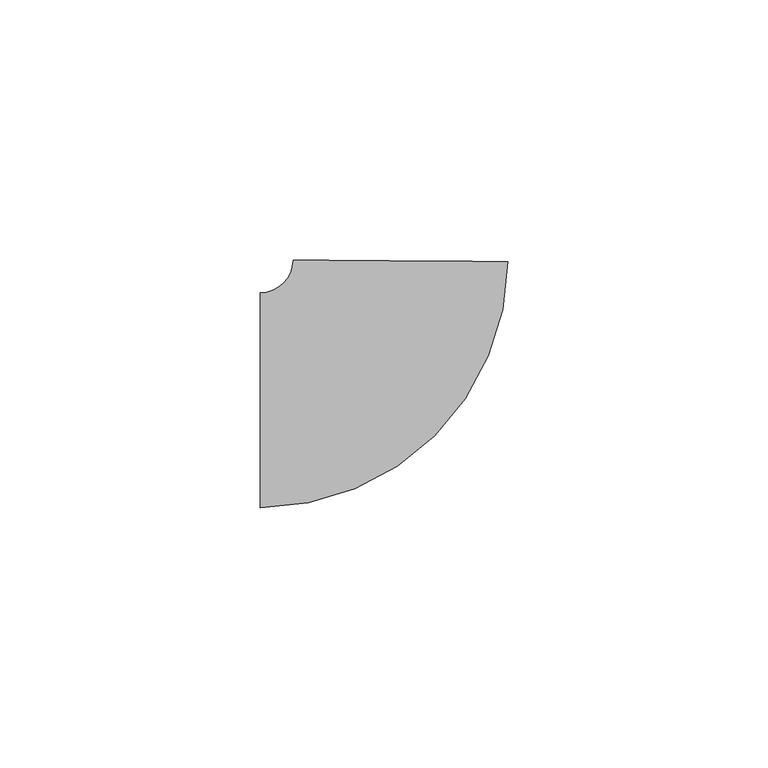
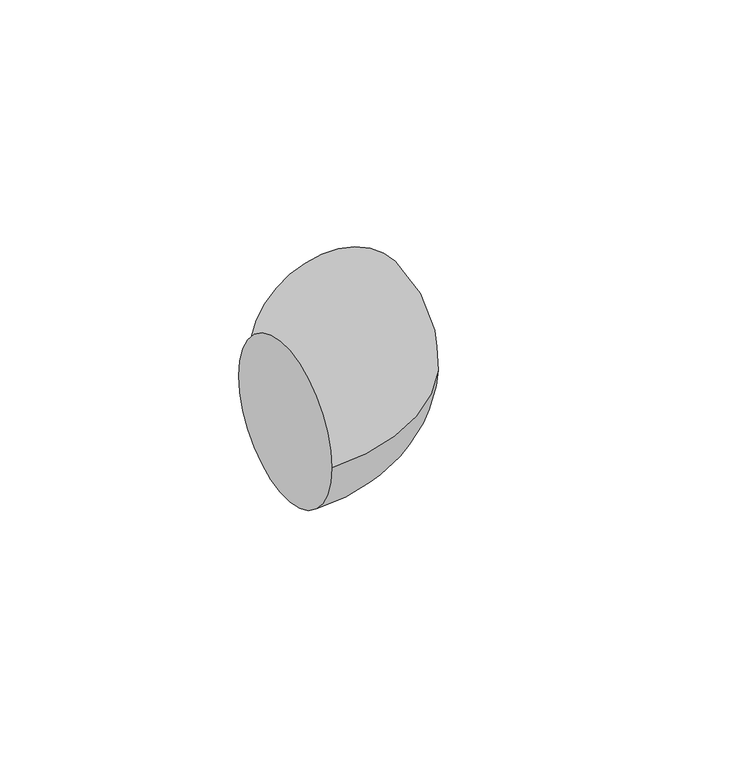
"""IFC4 building model written with IfcOpenShell, lengths in millimetres: pipe fitting geometry, M_Codo - Genérico : Estándar."""

from ifc_helpers import new_model, si_unit, point, frame, origin, place, context, project, spatial, circle_curve, ellipse_curve, trimmed, source, transform, mapped, element, save
from ifc_brep_helpers import plane_surface, revolved_surface, advanced_brep


def pipe_fitting_59c7173b(model_context):
    return source(origin(), model_context, "Body", "AdvancedBrep", [
        advanced_brep(
        [(-26.7876886, -20.6375, 0.0), (-26.7876886, 20.6375, 0.0), (20.8359964, 26.6335863, 0.0), (-20.4378639, 26.9403115, 0.0)],
        [
            (0, 1, circle_curve(frame((-26.7876886, 0.0, 0.0), z_axis=(-1.0, 0.0, 0.0), x_axis=(0.0, 1.0, 0.0)), 20.6375)),
            (1, 0, circle_curve(frame((-26.7876886, 0.0, 0.0), z_axis=(-1.0, 0.0, 0.0), x_axis=(0.0, 1.0, 0.0)), 20.6375)),
            (2, 3, circle_curve(frame((0.1990662, 26.7869489, 0.0), z_axis=(0.007431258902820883, 0.9999723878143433, 0.0), x_axis=(-0.9999723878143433, 0.007431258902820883, 0.0)), 20.6375)),
            (3, 2, circle_curve(frame((0.1990662, 26.7869489, 0.0), z_axis=(0.007431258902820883, 0.9999723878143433, 0.0), x_axis=(-0.9999723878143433, 0.007431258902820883, 0.0)), 20.6375)),
            (3, 1, circle_curve(frame((-26.7876886, 26.9875, 0.0), z_axis=(0.0, 0.0, -1.0), x_axis=(0.0, -1.0, 0.0)), 6.35)),
            (0, 2, circle_curve(frame((-26.7876886, 26.9875, 0.0), z_axis=(0.0, 0.0, 1.0), x_axis=(0.0, -1.0, 0.0)), 47.625)),
        ],
        [
            plane_surface(frame((-26.7876886, 0.0, 0.0), z_axis=(-1.0, 0.0, 0.0), x_axis=(0.0, 0.0, 1.0))),
            plane_surface(frame((0.1990662, 26.7869489, 0.0), z_axis=(0.007431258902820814, 0.9999723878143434, 0.0), x_axis=(0.0, 0.0, 1.0))),
            revolved_surface(trimmed(ellipse_curve(frame((-26.7876886, 0.0, 0.0), z_axis=(-1.0, 0.0, 0.0), x_axis=(0.0, 1.0, 0.0)), 20.6375, 20.6375), [point((-26.7876886, -20.6375, 0.0))], [point((-26.7876886, 20.6375, 0.0))], True, "CARTESIAN"), (-26.7876886, 26.9875, 0.0), (0.0, 0.0, 1.0)),
            revolved_surface(trimmed(ellipse_curve(frame((-26.7876886, 0.0, 0.0), z_axis=(-1.0, 0.0, 0.0), x_axis=(0.0, 1.0, 0.0)), 20.6375, 20.6375), [point((-26.7876886, 20.6375, 0.0))], [point((-26.7876886, -20.6375, 0.0))], True, "CARTESIAN"), (-26.7876886, 26.9875, 0.0), (0.0, 0.0, 1.0)),
        ],
        [
            (0, [[1, 2]]),
            (1, [[3, 4]]),
            (2, [[5, -1, 6, -4]]),
            (3, [[-6, -2, -5, -3]]),
        ],
    ),
    ])


if __name__ == "__main__":
    model = new_model("IFC4")
    model_context = context("Model", 3, world=origin())
    ifc_project = project(units=[si_unit("LENGTHUNIT", "METRE", prefix="MILLI")], contexts=[model_context])
    site = spatial("IfcSite", under=ifc_project)
    building = spatial("IfcBuilding", under=site)
    placement = place(None, origin())
    pipe_fitting_shape = pipe_fitting_59c7173b(model_context)
    element("IfcPipeFitting", 1, ObjectType="M_Codo - Genérico : Estándar", at=placement, inside=building, context=model_context, shape_type="MappedRepresentation", body=[
        mapped(pipe_fitting_shape, transform((0.0, 0.0, 0.0), x_axis=(1.0, 0.0, 0.0), y_axis=(0.0, 1.0, 0.0), z_axis=(0.0, 0.0, 1.0))),
    ])
    save(model, "model.ifc")
